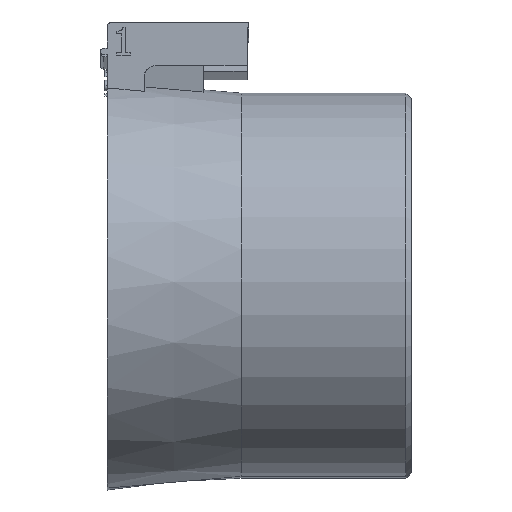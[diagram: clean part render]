
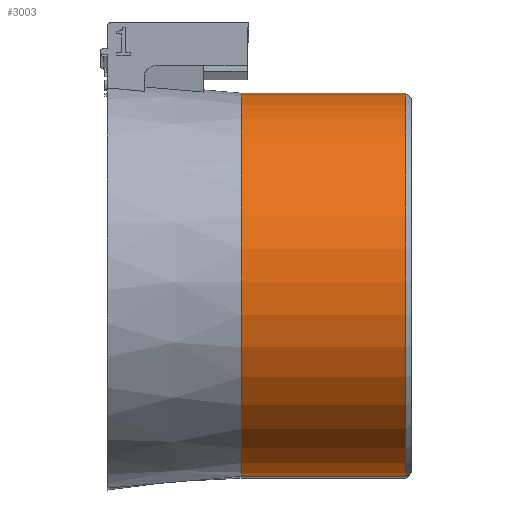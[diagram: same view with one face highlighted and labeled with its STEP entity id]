
A CAD part, front view. The second image highlights one B-rep face of the part: STEP entity #3003.
In plain terms, the highlighted cylindrical face has radius 17.5 mm (diameter 35 mm), a partial arc.
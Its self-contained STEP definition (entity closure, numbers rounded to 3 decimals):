
#60=CYLINDRICAL_SURFACE('',#3199,17.5);
#101=CIRCLE('',#3181,17.5);
#107=CIRCLE('',#3196,17.5);
#489=FACE_OUTER_BOUND('',#653,.T.);
#653=EDGE_LOOP('',(#2700,#2701,#2702,#2703));
#885=LINE('',#5024,#1167);
#900=LINE('',#5057,#1182);
#1167=VECTOR('',#3653,10.);
#1182=VECTOR('',#3674,10.);
#1454=VERTEX_POINT('',#5021);
#1455=VERTEX_POINT('',#5023);
#1469=VERTEX_POINT('',#5055);
#1470=VERTEX_POINT('',#5056);
#1834=EDGE_CURVE('',#1455,#1454,#885,.T.);
#1850=EDGE_CURVE('',#1469,#1470,#900,.T.);
#1892=EDGE_CURVE('',#1455,#1470,#101,.T.);
#1902=EDGE_CURVE('',#1469,#1454,#107,.T.);
#2700=ORIENTED_EDGE('',*,*,#1850,.T.);
#2701=ORIENTED_EDGE('',*,*,#1892,.F.);
#2702=ORIENTED_EDGE('',*,*,#1834,.T.);
#2703=ORIENTED_EDGE('',*,*,#1902,.F.);
#3003=ADVANCED_FACE('',(#489),#60,.T.);
#3181=AXIS2_PLACEMENT_3D('',#5143,#3770,#3771);
#3196=AXIS2_PLACEMENT_3D('',#5164,#3804,#3805);
#3199=AXIS2_PLACEMENT_3D('',#5176,#3812,#3813);
#3653=DIRECTION('',(-1.,0.,0.));
#3674=DIRECTION('',(1.,0.,0.));
#3770=DIRECTION('center_axis',(1.,0.,0.));
#3771=DIRECTION('ref_axis',(0.,1.,0.));
#3804=DIRECTION('center_axis',(-1.,0.,0.));
#3805=DIRECTION('ref_axis',(0.,-1.,0.));
#3812=DIRECTION('center_axis',(-1.,0.,0.));
#3813=DIRECTION('ref_axis',(0.,-1.,0.));
#5021=CARTESIAN_POINT('',(11.43,0.,17.5));
#5023=CARTESIAN_POINT('',(26.5,0.,17.5));
#5024=CARTESIAN_POINT('',(19.215,0.,17.5));
#5055=CARTESIAN_POINT('',(11.43,-0.489,-17.493));
#5056=CARTESIAN_POINT('',(26.5,-0.489,-17.493));
#5057=CARTESIAN_POINT('',(19.215,-0.489,-17.493));
#5143=CARTESIAN_POINT('Origin',(26.5,0.,
0.));
#5164=CARTESIAN_POINT('Origin',(11.43,0.,0.));
#5176=CARTESIAN_POINT('Origin',(19.215,0.,
0.));
